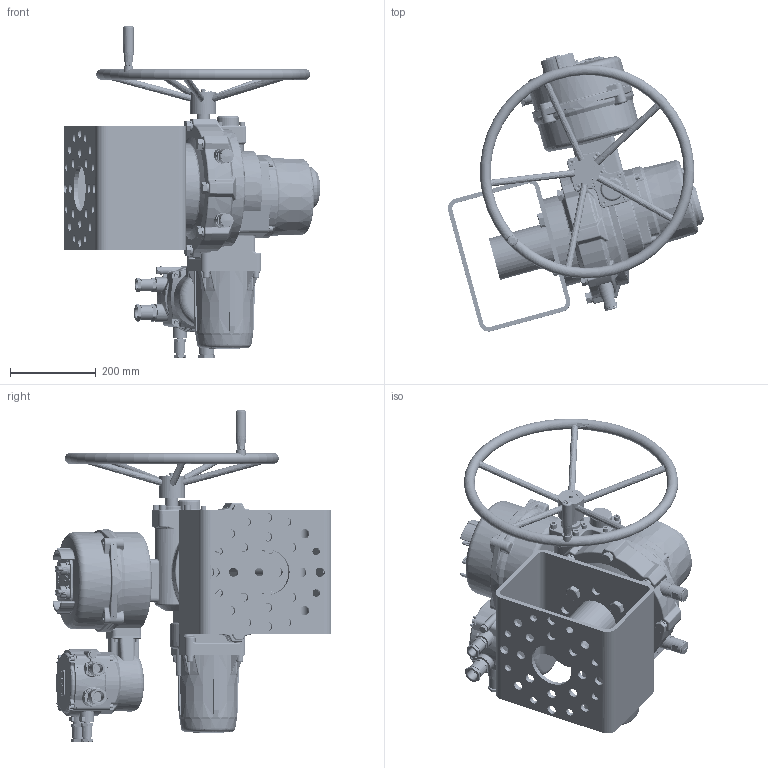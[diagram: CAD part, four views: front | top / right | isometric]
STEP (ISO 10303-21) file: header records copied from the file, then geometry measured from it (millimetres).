
FILE_DESCRIPTION(('STEP AP203'), '1');
FILE_NAME('ÃÇ-ÎÔÂ-5000-ÊÑ òèïîðàçìåð 8023', '', ('UNSPECIFIED'), ('UNSPECIFIED'), 'C3D Converter', 'C3D Toolkit', '');
FILE_SCHEMA(('CONFIG_CONTROL_DESIGN'));
Length unit declared in the file: millimetre
Products named in the file (1): ГЗ-ОФВ-5000 типоразмер 8023
Bounding box: 597.47 x 650.68 x 774.6 mm (x, y, z)
Volume: 4199610.7 mm3; surface area: 3267682.1 mm2
Topology: 5 solids, 143 shells, 10388 faces, 28616 edges, 19006 vertices
Faces by surface type: plane 5108, bspline 2021, cylinder 1882, cone 690, torus 571, sphere 116
Full cylindrical faces by diameter (mm): 1.5 x1, 2.2 x6, 2.459 x10, 2.675 x8, 3 x10, 3.11 x2, 3.2 x11, 3.242 x13, 3.5 x7, 3.545 x2, 4 x18, 4.134 x9, 4.2 x1, 4.3 x3, 4.5 x1, 4.917 x21, 5 x4, 5.2 x2, 5.5 x4, 6 x25, 6.647 x13, 7 x22, 8 x17, 8.376 x5, 8.9 x1, 9 x18, 9.5 x5, 10 x31, 10.106 x11, 10.2 x1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
Entity records: 636706 total; most frequent: CARTESIAN_POINT 310834, ORIENTED_EDGE 54208, DIRECTION 42885, EDGE_CURVE 27153, VERTEX_POINT 18771, AXIS2_PLACEMENT_3D 15750, EDGE_LOOP 12495, FACE_BOUND 11935
